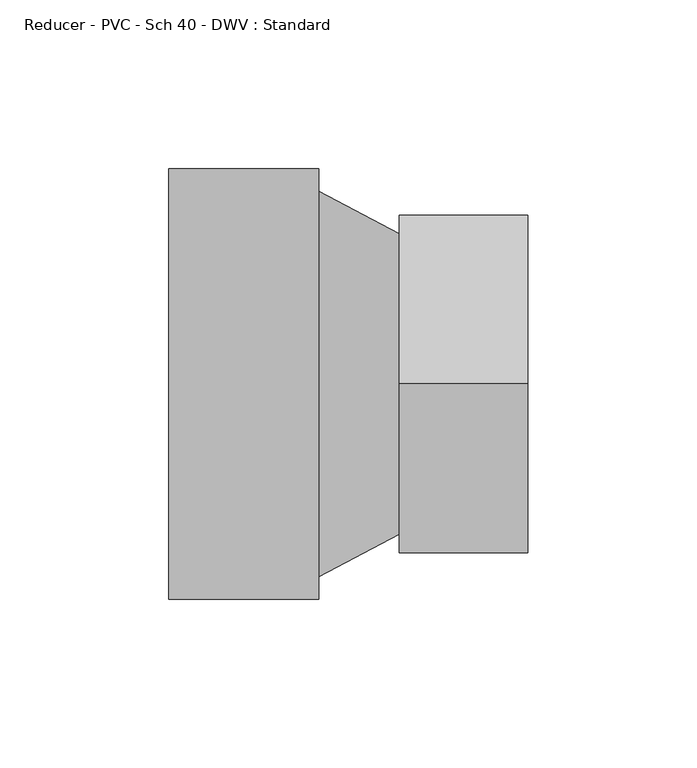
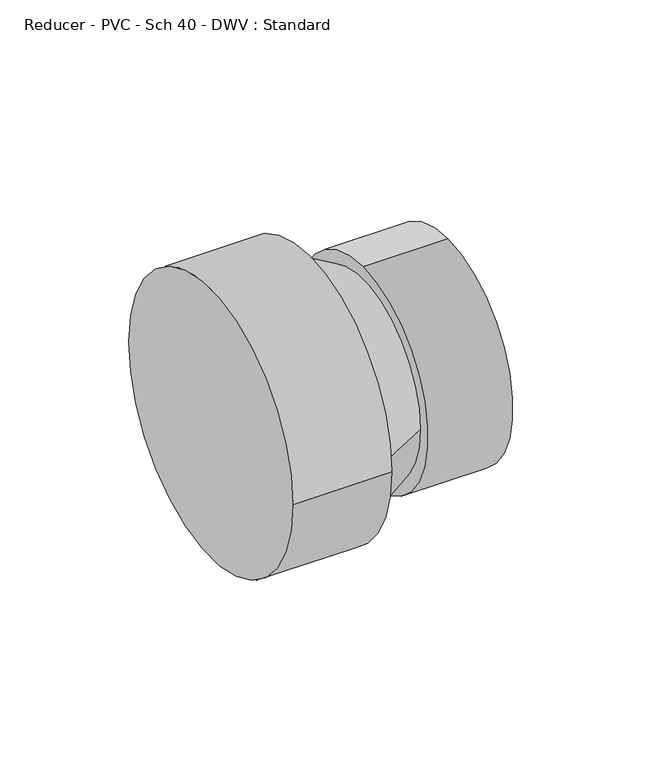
"""IFC4 building model written with IfcOpenShell, lengths in millimetres: pipe fitting geometry, Reducer - PVC - Sch 40 - DWV : Standard."""

import ifcopenshell
import ifcopenshell.guid

model = None  # the IFC model being written
_history = None  # IfcOwnerHistory: only IFC2X3 demands one
_inside = {}  # id of a spatial element -> (the spatial element, [elements in it])
_under = {}  # id of a project, library or spatial element -> (it, [spatial elements below it])
_declared = {}  # id of a project -> (the project, [libraries it declares])
_typed = {}  # id of a type object -> (the type object, [elements of that type])
_made_of = {}  # id of a material, layer set ... -> (it, [elements and type objects made of it])


def new_model(schema):
    """Start an empty IFC model of exactly this schema.

    Asked for "IFC4X3", IfcOpenShell would pick the latest addendum, in which some entities
    have other attributes; the version numbers below select the first issue.
    IFC2X3 requires an IfcOwnerHistory on every rooted entity: one is made here for all.
    """
    global model, _history
    if schema == "IFC4X3":
        model = ifcopenshell.file(schema_version=(4, 3, 0, 0))
    else:
        model = ifcopenshell.file(schema=schema)
    _inside.clear()
    _under.clear()
    _declared.clear()
    _typed.clear()
    _made_of.clear()
    _history = None
    if model.schema == "IFC2X3":
        org = make("IfcOrganization", Name="unknown")
        user = make(
            "IfcPersonAndOrganization",
            ThePerson=make("IfcPerson", FamilyName="unknown"),
            TheOrganization=org,
        )
        app = make(
            "IfcApplication",
            ApplicationDeveloper=org,
            Version="unknown",
            ApplicationFullName="unknown",
            ApplicationIdentifier="unknown",
        )
        _history = make(
            "IfcOwnerHistory",
            OwningUser=user,
            OwningApplication=app,
            ChangeAction="ADDED",
            CreationDate=0,
        )
    return model


def make(cls, **values):
    """One entity of the class cls with the attributes given. An attribute that is None is left unset."""
    return model.create_entity(
        cls, **{name: value for name, value in values.items() if value is not None}
    )


def rooted(cls, **values):
    """An entity with a GlobalId (a new one), such as an element, a storey or a relation."""
    return make(cls, GlobalId=ifcopenshell.guid.new(), OwnerHistory=_history, **values)


def si_unit(unit_type, name, prefix=None):
    """IfcSIUnit, for example si_unit("LENGTHUNIT", "METRE", prefix="MILLI")."""
    return make("IfcSIUnit", UnitType=unit_type, Prefix=prefix, Name=name)


def assignment(units):
    """IfcUnitAssignment: the units of a project."""
    return None if units is None else make("IfcUnitAssignment", Units=units)


def point(xyz):
    """IfcCartesianPoint."""
    return None if xyz is None else make("IfcCartesianPoint", Coordinates=xyz)


def direction(xyz):
    """IfcDirection."""
    return None if xyz is None else make("IfcDirection", DirectionRatios=xyz)


def frame(location, z_axis=None, x_axis=None):
    """IfcAxis2Placement3D, a coordinate frame: its origin and axes. An axis left out is left unset."""
    return make(
        "IfcAxis2Placement3D",
        Location=point(location),
        Axis=direction(z_axis),
        RefDirection=direction(x_axis),
    )


def origin():
    """The frame at (0, 0, 0) with its axes left unset."""
    return frame((0.0, 0.0, 0.0))


def place(relative_to, where):
    """IfcLocalPlacement: puts the frame where relative to a parent placement (None: the world)."""
    return make(
        "IfcLocalPlacement", PlacementRelTo=relative_to, RelativePlacement=where
    )


def context(
    kind, dimensions, precision=None, world=None, true_north=None, identifier=None
):
    """IfcGeometricRepresentationContext, for example the 3D "Model" context."""
    return make(
        "IfcGeometricRepresentationContext",
        ContextIdentifier=identifier,
        ContextType=kind,
        CoordinateSpaceDimension=dimensions,
        Precision=precision,
        WorldCoordinateSystem=world,
        TrueNorth=true_north,
    )


def project(units=None, contexts=None):
    """IfcProject with its units and contexts."""
    return rooted(
        "IfcProject",
        Name="project",
        RepresentationContexts=contexts,
        UnitsInContext=assignment(units),
    )


def spatial(cls, under=None, at=None, **own):
    """A site, building, storey or space (cls), placed at a placement, below another one or the project."""
    s = rooted(cls, ObjectPlacement=at, **own)
    if under is not None:
        _under.setdefault(under.id(), (under, []))[1].append(s)
    return s


def circle_curve(where, radius):
    """IfcCircle in the frame where."""
    return make("IfcCircle", Position=where, Radius=radius)


def shape(context_of_items, identifier, shape_type, items):
    """IfcShapeRepresentation: the items that make up one representation, for example the "Body"."""
    return make(
        "IfcShapeRepresentation",
        ContextOfItems=context_of_items,
        RepresentationIdentifier=identifier,
        RepresentationType=shape_type,
        Items=items,
    )


def source(mapping_origin, context_of_items, identifier, shape_type, items):
    """IfcRepresentationMap: a shape defined once, which mapped items show again and again."""
    return make(
        "IfcRepresentationMap",
        MappingOrigin=mapping_origin,
        MappedRepresentation=shape(context_of_items, identifier, shape_type, items),
    )


def transform(
    local_origin,
    x_axis=None,
    y_axis=None,
    z_axis=None,
    scale=None,
    scale2=None,
    scale3=None,
    uniform=True,
):
    """IfcCartesianTransformationOperator3D, or its non-uniform kind. x_axis, y_axis, z_axis: its Axis1, 2, 3."""
    if uniform:
        return make(
            "IfcCartesianTransformationOperator3D",
            Axis1=direction(x_axis),
            Axis2=direction(y_axis),
            LocalOrigin=point(local_origin),
            Scale=scale,
            Axis3=direction(z_axis),
        )
    return make(
        "IfcCartesianTransformationOperator3DnonUniform",
        Axis1=direction(x_axis),
        Axis2=direction(y_axis),
        LocalOrigin=point(local_origin),
        Scale=scale,
        Axis3=direction(z_axis),
        Scale2=scale2,
        Scale3=scale3,
    )


def mapped(mapping_source, mapping_target):
    """IfcMappedItem: shows the shape of a source again, moved by a transform."""
    return make(
        "IfcMappedItem", MappingSource=mapping_source, MappingTarget=mapping_target
    )


def made_of(thing, what):
    """Note that an element or type object is made of a material, layer set ...; save() writes the relation."""
    if what is not None:
        _made_of.setdefault(what.id(), (what, []))[1].append(thing)
    return thing


def element(
    cls,
    number,
    at=None,
    inside=None,
    cuts=None,
    type_object=None,
    material=None,
    context=None,
    identifier="Body",
    shape_type=None,
    held_by="IfcProductDefinitionShape",
    body=None,
    shapes=None,
    **own,
):
    """One element of the class cls, such as IfcWall. Its Tag is "e" and its number.

    at: its placement. inside: the storey or other place that contains it. cuts: it is an
    opening in that element (IfcRelVoidsElement). A single representation is given by context,
    identifier, shape_type and body (its items); several are given by shapes. held_by: the class
    of the entity that holds the representations. save() writes the other relations.
    """
    e = rooted(cls, Tag="e%d" % number, ObjectPlacement=at, **own)
    if body is not None:
        shapes = [shape(context, identifier, shape_type, body)]
    if shapes is not None:
        e.Representation = make(held_by, Representations=shapes)
    if inside is not None:
        _inside.setdefault(inside.id(), (inside, []))[1].append(e)
    if cuts is not None:
        rooted(
            "IfcRelVoidsElement", RelatingBuildingElement=cuts, RelatedOpeningElement=e
        )
    if type_object is not None:
        _typed.setdefault(type_object.id(), (type_object, []))[1].append(e)
    return made_of(e, material)


def aggregate(whole, parts):
    """IfcRelAggregates: a whole, such as a stair, and the parts it consists of."""
    return rooted("IfcRelAggregates", RelatingObject=whole, RelatedObjects=parts)


def save(model, path):
    """Write the relations noted so far, then the file.

    IfcRelAggregates (storeys below a building ...), IfcRelContainedInSpatialStructure (elements
    in a storey), IfcRelDefinesByType, IfcRelAssociatesMaterial and IfcRelDeclares: one each for
    every whole, place, type object, material and project.
    """
    for whole, parts in _under.values():
        aggregate(whole, parts)
    for where, things in _inside.values():
        rooted(
            "IfcRelContainedInSpatialStructure",
            RelatedElements=things,
            RelatingStructure=where,
        )
    for kind, things in _typed.values():
        rooted("IfcRelDefinesByType", RelatedObjects=things, RelatingType=kind)
    for what, things in _made_of.values():
        rooted("IfcRelAssociatesMaterial", RelatedObjects=things, RelatingMaterial=what)
    for by, libraries in _declared.values():
        rooted("IfcRelDeclares", RelatingContext=by, RelatedDefinitions=libraries)
    model.write(path)


def plane_surface(at):
    """IfcPlane: the flat surface through the origin of the frame at, square to its z axis."""
    return make("IfcPlane", Position=at)


def cylinder_surface(at, radius):
    """IfcCylindricalSurface: all points at the distance radius from the z axis of the frame at."""
    return make("IfcCylindricalSurface", Position=at, Radius=radius)


def spline_surface(u_degree, v_degree, points, u_multiplicities, v_multiplicities, u_knots, v_knots, weights=None):
    """IfcBSplineSurfaceWithKnots; with weights, IfcRationalBSplineSurfaceWithKnots. points: one row for each step in u."""
    own = dict(
        UDegree=u_degree,
        VDegree=v_degree,
        ControlPointsList=[[point(p) for p in row] for row in points],
        SurfaceForm="UNSPECIFIED",
        UClosed=False,
        VClosed=False,
        SelfIntersect=False,
        UMultiplicities=u_multiplicities,
        VMultiplicities=v_multiplicities,
        UKnots=u_knots,
        VKnots=v_knots,
        KnotSpec="UNSPECIFIED",
    )
    if weights is None:
        return make("IfcBSplineSurfaceWithKnots", **own)
    return make("IfcRationalBSplineSurfaceWithKnots", WeightsData=weights, **own)


def advanced_brep(points, edges, surfaces, faces):
    """IfcAdvancedBrep: a solid bounded by faces that lie on surfaces and meet in shared edges.

    An edge is (start, end): straight between two places in points (the first is 0);
    or (start, end, curve); or (start, end, curve, False) where it runs against its curve.
    A face is (place in surfaces, loops), or (place, loops, False) where it looks against
    its surface's normal. A loop lists edges by number (the first is 1), with a minus sign
    where the edge is run from its end to its start. The first loop is the outer one.
    """
    corners = [point(p) for p in points]
    vertices = [make("IfcVertexPoint", VertexGeometry=c) for c in corners]
    made = []
    for start, end, *more in edges:
        made.append(
            make(
                "IfcEdgeCurve",
                EdgeStart=vertices[start],
                EdgeEnd=vertices[end],
                EdgeGeometry=more[0] if more else make("IfcPolyline", Points=[corners[start], corners[end]]),
                SameSense=more[1] if len(more) > 1 else True,
            )
        )
    hull = []
    for where, loops, *sense in faces:
        bounds = []
        for j, loop in enumerate(loops):
            ring = [make("IfcOrientedEdge", EdgeElement=made[abs(k) - 1], Orientation=k > 0) for k in loop]
            bounds.append(
                make(
                    "IfcFaceOuterBound" if j == 0 else "IfcFaceBound",
                    Bound=make("IfcEdgeLoop", EdgeList=ring),
                    Orientation=True,
                )
            )
        hull.append(make("IfcAdvancedFace", Bounds=bounds, FaceSurface=surfaces[where], SameSense=sense[0] if sense else True))
    return make("IfcAdvancedBrep", Outer=make("IfcClosedShell", CfsFaces=hull))


def reducer_pvc_sch_40_dwv_standard_a2860a8a(model_context):
    return source(origin(), model_context, "Body", "AdvancedBrep", [
        advanced_brep(
        [(0.0, 63.754, 0.0), (0.0, -63.754, 0.0), (44.45, 63.754, 0.0), (44.45, -63.754, 0.0), (44.45, -57.15, 0.0), (44.45, 57.15, 0.0), (68.2752, 44.4504832, 0.0), (68.2752, -44.4495168, 0.0), (68.2752, 0.0004832, 50.2666), (68.2752, 0.0004832, -50.2666), (106.3752, 0.0004832, 50.2666), (106.3752, 0.0004832, -50.2666)],
        [
            (0, 1, circle_curve(frame((0.0, 0.0, 0.0), z_axis=(-1.0, 0.0, 0.0), x_axis=(0.0, -1.0, 0.0)), 63.754)),
            (1, 0, circle_curve(frame((0.0, 0.0, 0.0), z_axis=(-1.0, 0.0, 0.0), x_axis=(0.0, -1.0, 0.0)), 63.754)),
            (2, 3, circle_curve(frame((44.45, 0.0, 0.0), z_axis=(1.0, 0.0, 0.0), x_axis=(0.0, -1.0, 0.0)), 63.754)),
            (3, 2, circle_curve(frame((44.45, 0.0, 0.0), z_axis=(1.0, 0.0, 0.0), x_axis=(0.0, -1.0, 0.0)), 63.754)),
            (4, 5, circle_curve(frame((44.45, 0.0, 0.0), z_axis=(-1.0, 0.0, 0.0), x_axis=(0.0, -1.0, 0.0)), 57.15)),
            (5, 4, circle_curve(frame((44.45, 0.0, 0.0), z_axis=(-1.0, 0.0, 0.0), x_axis=(0.0, -1.0, 0.0)), 57.15)),
            (1, 3),
            (2, 0),
            (5, 6),
            (6, 7, circle_curve(frame((68.2752, 0.0004832, 0.0), z_axis=(-1.0, 0.0, 0.0), x_axis=(0.0, -1.0, 0.0)), 44.45)),
            (7, 4),
            (7, 6, circle_curve(frame((68.2752, 0.0004832, 0.0), z_axis=(-1.0, 0.0, 0.0), x_axis=(0.0, -1.0, 0.0)), 44.45)),
            (8, 9, circle_curve(frame((68.2752, 0.0004832, 0.0), z_axis=(-1.0, 0.0, 0.0), x_axis=(0.0, 0.0, -1.0)), 50.2666)),
            (9, 8, circle_curve(frame((68.2752, 0.0004832, 0.0), z_axis=(-1.0, 0.0, 0.0), x_axis=(0.0, 0.0, -1.0)), 50.2666)),
            (10, 11, circle_curve(frame((106.3752, 0.0004832, 0.0), z_axis=(1.0, 0.0, 0.0), x_axis=(0.0, 0.0, -1.0)), 50.2666)),
            (11, 10, circle_curve(frame((106.3752, 0.0004832, 0.0), z_axis=(1.0, 0.0, 0.0), x_axis=(0.0, 0.0, -1.0)), 50.2666)),
            (9, 11),
            (10, 8),
        ],
        [
            plane_surface(frame((0.0, 0.0, 0.0), z_axis=(-1.0, 0.0, 0.0), x_axis=(0.0, 0.0, 1.0))),
            plane_surface(frame((44.45, 0.0, 0.0), z_axis=(1.0, 0.0, 0.0), x_axis=(0.0, 0.0, 1.0))),
            cylinder_surface(frame((0.0, 0.0, 0.0), z_axis=(-1.0, 0.0, 0.0), x_axis=(0.0, -1.0, 0.0)), 63.754),
            spline_surface(1, 2, [[(44.45, 57.15, 0.0), (44.45, 57.15, -57.15), (44.45, 0.0, -57.15), (44.45, -57.15, -57.15), (44.45, -57.15, 0.0)], [(68.2752, 44.4504832, 0.0), (68.2752, 44.4504832, -44.45), (68.2752, 0.0004832, -44.45), (68.2752, -44.449516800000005, -44.45), (68.2752, -44.4495168, 0.0)]], [2, 2], [3, 2, 3], [0.0, 1.0], [0.0, 1.0, 2.0], weights=[[1.0, 0.7071067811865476, 1.0, 0.7071067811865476, 1.0], [1.0, 0.7071067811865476, 1.0, 0.7071067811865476, 1.0]]),
            spline_surface(1, 2, [[(44.45, -57.15, 0.0), (44.45, -57.15, 57.15), (44.45, 0.0, 57.15), (44.45, 57.15, 57.15), (44.45, 57.15, 0.0)], [(68.2752, -44.4495168, 0.0), (68.2752, -44.4495168, 44.449999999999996), (68.2752, 0.0004832, 44.449999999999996), (68.2752, 44.450483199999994, 44.449999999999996), (68.2752, 44.4504832, 0.0)]], [2, 2], [3, 2, 3], [0.0, 1.0], [0.0, 1.0, 2.0], weights=[[1.0, 0.7071067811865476, 1.0, 0.7071067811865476, 1.0], [1.0, 0.7071067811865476, 1.0, 0.7071067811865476, 1.0]]),
            plane_surface(frame((68.2752, 0.0004832, 0.0), z_axis=(-1.0, 0.0, 0.0), x_axis=(0.0, -1.0, 0.0))),
            plane_surface(frame((106.3752, 0.0004832, 0.0), z_axis=(1.0, 0.0, 0.0), x_axis=(0.0, -1.0, 0.0))),
            cylinder_surface(frame((68.2752, 0.0004832, 0.0), z_axis=(-1.0, 0.0, 0.0), x_axis=(0.0, 0.0, -1.0)), 50.2666),
        ],
        [
            (0, [[1, 2]]),
            (1, [[3, 4], [5, 6]]),
            (2, [[7, -3, 8, -2]]),
            (2, [[-8, -4, -7, -1]]),
            (3, [[-6, 9, 10, 11]]),
            (4, [[12, -9, -5, -11]]),
            (5, [[13, 14], [-12, -10]]),
            (6, [[15, 16]]),
            (7, [[17, -15, 18, -14]]),
            (7, [[-18, -16, -17, -13]]),
        ],
    ),
    ])


if __name__ == "__main__":
    model = new_model("IFC4")
    model_context = context("Model", 3, world=origin())
    ifc_project = project(units=[si_unit("LENGTHUNIT", "METRE", prefix="MILLI")], contexts=[model_context])
    site = spatial("IfcSite", under=ifc_project)
    building = spatial("IfcBuilding", under=site)
    placement = place(None, origin())
    reducer_pvc_sch_40_dwv_standard_shape = reducer_pvc_sch_40_dwv_standard_a2860a8a(model_context)
    element("IfcPipeFitting", 1, ObjectType="Reducer - PVC - Sch 40 - DWV : Standard", at=placement, inside=building, context=model_context, shape_type="MappedRepresentation", body=[
        mapped(reducer_pvc_sch_40_dwv_standard_shape, transform((0.0, 0.0, 0.0), x_axis=(1.0, 0.0, 0.0), y_axis=(0.0, 1.0, 0.0), z_axis=(0.0, 0.0, 1.0))),
    ])
    save(model, "model.ifc")
